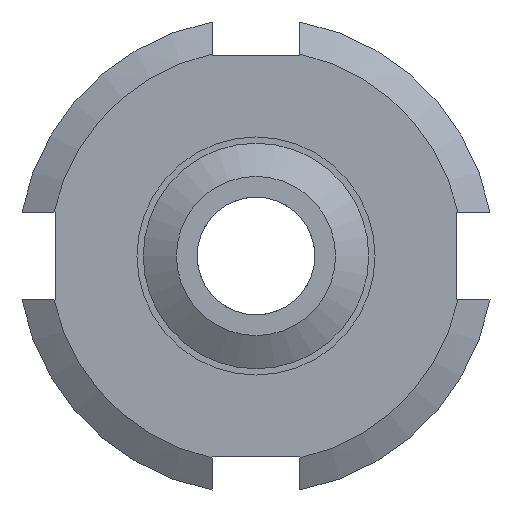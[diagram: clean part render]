
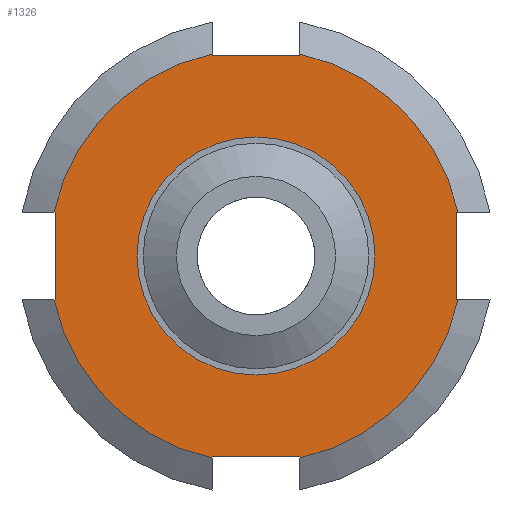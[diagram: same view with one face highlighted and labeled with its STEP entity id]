
A CAD part, front view. The second image highlights one B-rep face of the part: STEP entity #1326.
In plain terms, the highlighted planar face has unit normal (0, -1, 0) as drawn and (1, 0, 0) by its records, which use the part's own axes.
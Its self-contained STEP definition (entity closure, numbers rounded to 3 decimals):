
#84=LINE('',#2314,#142);
#88=LINE('',#2331,#146);
#92=LINE('',#2346,#150);
#94=LINE('',#2351,#152);
#98=LINE('',#2368,#156);
#102=LINE('',#2383,#160);
#104=LINE('',#2388,#162);
#108=LINE('',#2405,#166);
#112=LINE('',#2420,#170);
#119=LINE('',#2484,#177);
#121=LINE('',#2488,#179);
#123=LINE('',#2491,#181);
#142=VECTOR('',#1922,10.);
#146=VECTOR('',#1928,10.);
#150=VECTOR('',#1934,10.);
#152=VECTOR('',#1938,10.);
#156=VECTOR('',#1944,10.);
#160=VECTOR('',#1950,10.);
#162=VECTOR('',#1954,10.);
#166=VECTOR('',#1960,10.);
#170=VECTOR('',#1966,10.);
#177=VECTOR('',#2037,10.);
#179=VECTOR('',#2041,10.);
#181=VECTOR('',#2045,10.);
#211=FACE_BOUND('',#375,.T.);
#235=PLANE('',#1622);
#298=FACE_OUTER_BOUND('',#374,.T.);
#374=EDGE_LOOP('',(#1173,#1174,#1175,#1176,#1177,#1178,#1179,#1180,#1181,
#1182,#1183,#1184,#1185,#1186,#1187,#1188));
#375=EDGE_LOOP('',(#1189,#1190));
#473=CIRCLE('',#1589,16.501);
#475=CIRCLE('',#1592,16.501);
#477=CIRCLE('',#1595,16.501);
#480=CIRCLE('',#1599,16.501);
#491=CIRCLE('',#1623,9.5);
#492=CIRCLE('',#1624,9.5);
#579=VERTEX_POINT('',#2312);
#580=VERTEX_POINT('',#2313);
#585=VERTEX_POINT('',#2329);
#586=VERTEX_POINT('',#2330);
#591=VERTEX_POINT('',#2349);
#592=VERTEX_POINT('',#2350);
#597=VERTEX_POINT('',#2366);
#598=VERTEX_POINT('',#2367);
#603=VERTEX_POINT('',#2386);
#604=VERTEX_POINT('',#2387);
#609=VERTEX_POINT('',#2403);
#610=VERTEX_POINT('',#2404);
#615=VERTEX_POINT('',#2423);
#618=VERTEX_POINT('',#2439);
#627=VERTEX_POINT('',#2483);
#628=VERTEX_POINT('',#2487);
#629=VERTEX_POINT('',#2493);
#630=VERTEX_POINT('',#2494);
#744=EDGE_CURVE('',#579,#580,#84,.T.);
#750=EDGE_CURVE('',#585,#586,#88,.T.);
#756=EDGE_CURVE('',#586,#579,#92,.T.);
#758=EDGE_CURVE('',#591,#592,#94,.T.);
#764=EDGE_CURVE('',#597,#598,#98,.T.);
#770=EDGE_CURVE('',#598,#591,#102,.T.);
#772=EDGE_CURVE('',#603,#604,#104,.T.);
#778=EDGE_CURVE('',#609,#610,#108,.T.);
#784=EDGE_CURVE('',#610,#603,#112,.T.);
#786=EDGE_CURVE('',#615,#609,#473,.T.);
#789=EDGE_CURVE('',#604,#597,#475,.T.);
#791=EDGE_CURVE('',#592,#585,#477,.T.);
#795=EDGE_CURVE('',#580,#618,#480,.T.);
#813=EDGE_CURVE('',#627,#615,#119,.T.);
#815=EDGE_CURVE('',#618,#628,#121,.T.);
#817=EDGE_CURVE('',#628,#627,#123,.T.);
#818=EDGE_CURVE('',#629,#630,#491,.T.);
#819=EDGE_CURVE('',#630,#629,#492,.T.);
#1173=ORIENTED_EDGE('',*,*,#744,.T.);
#1174=ORIENTED_EDGE('',*,*,#795,.T.);
#1175=ORIENTED_EDGE('',*,*,#815,.T.);
#1176=ORIENTED_EDGE('',*,*,#817,.T.);
#1177=ORIENTED_EDGE('',*,*,#813,.T.);
#1178=ORIENTED_EDGE('',*,*,#786,.T.);
#1179=ORIENTED_EDGE('',*,*,#778,.T.);
#1180=ORIENTED_EDGE('',*,*,#784,.T.);
#1181=ORIENTED_EDGE('',*,*,#772,.T.);
#1182=ORIENTED_EDGE('',*,*,#789,.T.);
#1183=ORIENTED_EDGE('',*,*,#764,.T.);
#1184=ORIENTED_EDGE('',*,*,#770,.T.);
#1185=ORIENTED_EDGE('',*,*,#758,.T.);
#1186=ORIENTED_EDGE('',*,*,#791,.T.);
#1187=ORIENTED_EDGE('',*,*,#750,.T.);
#1188=ORIENTED_EDGE('',*,*,#756,.T.);
#1189=ORIENTED_EDGE('',*,*,#818,.F.);
#1190=ORIENTED_EDGE('',*,*,#819,.F.);
#1326=ADVANCED_FACE('',(#298,#211),#235,.T.);
#1589=AXIS2_PLACEMENT_3D('',#2424,#1970,#1971);
#1592=AXIS2_PLACEMENT_3D('',#2431,#1976,#1977);
#1595=AXIS2_PLACEMENT_3D('',#2434,#1982,#1983);
#1599=AXIS2_PLACEMENT_3D('',#2443,#1990,#1991);
#1622=AXIS2_PLACEMENT_3D('',#2492,#2046,#2047);
#1623=AXIS2_PLACEMENT_3D('',#2495,#2048,#2049);
#1624=AXIS2_PLACEMENT_3D('',#2496,#2050,#2051);
#1922=DIRECTION('',(0.,0.,-1.));
#1928=DIRECTION('',(0.,0.,1.));
#1934=DIRECTION('',(0.,1.,0.));
#1938=DIRECTION('',(0.,-1.,0.));
#1944=DIRECTION('',(0.,1.,0.));
#1950=DIRECTION('',(0.,0.,-1.));
#1954=DIRECTION('',(0.,0.,1.));
#1960=DIRECTION('',(0.,0.,-1.));
#1966=DIRECTION('',(0.,-1.,0.));
#1970=DIRECTION('center_axis',(1.,0.,0.));
#1971=DIRECTION('ref_axis',(0.,0.,-1.));
#1976=DIRECTION('center_axis',(1.,0.,0.));
#1977=DIRECTION('ref_axis',(0.,0.,-1.));
#1982=DIRECTION('center_axis',(1.,0.,0.));
#1983=DIRECTION('ref_axis',(0.,0.,-1.));
#1990=DIRECTION('center_axis',(1.,0.,0.));
#1991=DIRECTION('ref_axis',(0.,0.,-1.));
#2037=DIRECTION('',(0.,1.,0.));
#2041=DIRECTION('',(0.,-1.,0.));
#2045=DIRECTION('',(0.,0.,1.));
#2046=DIRECTION('center_axis',(1.,0.,0.));
#2047=DIRECTION('ref_axis',(0.,0.,-1.));
#2048=DIRECTION('center_axis',(1.,0.,0.));
#2049=DIRECTION('ref_axis',(0.,0.,-1.));
#2050=DIRECTION('center_axis',(1.,0.,0.));
#2051=DIRECTION('ref_axis',(0.,0.,-1.));
#2312=CARTESIAN_POINT('',(18.,3.5,-16.));
#2313=CARTESIAN_POINT('',(18.,3.5,-16.125));
#2314=CARTESIAN_POINT('',(18.,3.5,-9.5));
#2329=CARTESIAN_POINT('',(18.,-3.5,-16.125));
#2330=CARTESIAN_POINT('',(18.,-3.5,-16.));
#2331=CARTESIAN_POINT('',(18.,-3.5,-9.5));
#2346=CARTESIAN_POINT('',(18.,4.75,-16.));
#2349=CARTESIAN_POINT('',(18.,-16.,-3.5));
#2350=CARTESIAN_POINT('',(18.,-16.125,-3.5));
#2351=CARTESIAN_POINT('',(18.,-4.75,-3.5));
#2366=CARTESIAN_POINT('',(18.,-16.125,3.5));
#2367=CARTESIAN_POINT('',(18.,-16.,3.5));
#2368=CARTESIAN_POINT('',(18.,-4.75,3.5));
#2383=CARTESIAN_POINT('',(18.,-16.,0.));
#2386=CARTESIAN_POINT('',(18.,-3.5,16.));
#2387=CARTESIAN_POINT('',(18.,-3.5,16.125));
#2388=CARTESIAN_POINT('',(18.,-3.5,9.5));
#2403=CARTESIAN_POINT('',(18.,3.5,16.125));
#2404=CARTESIAN_POINT('',(18.,3.5,16.));
#2405=CARTESIAN_POINT('',(18.,3.5,9.5));
#2420=CARTESIAN_POINT('',(18.,4.75,16.));
#2423=CARTESIAN_POINT('',(18.,16.125,3.5));
#2424=CARTESIAN_POINT('Origin',(18.,0.,0.));
#2431=CARTESIAN_POINT('Origin',(18.,0.,0.));
#2434=CARTESIAN_POINT('Origin',(18.,0.,0.));
#2439=CARTESIAN_POINT('',(18.,16.125,-3.5));
#2443=CARTESIAN_POINT('Origin',(18.,0.,0.));
#2483=CARTESIAN_POINT('',(18.,16.,3.5));
#2484=CARTESIAN_POINT('',(18.,14.25,3.5));
#2487=CARTESIAN_POINT('',(18.,16.,-3.5));
#2488=CARTESIAN_POINT('',(18.,14.25,-3.5));
#2491=CARTESIAN_POINT('',(18.,16.,0.));
#2492=CARTESIAN_POINT('Origin',(18.,9.5,0.));
#2493=CARTESIAN_POINT('',(18.,9.5,0.));
#2494=CARTESIAN_POINT('',(18.,-9.5,0.));
#2495=CARTESIAN_POINT('Origin',(18.,0.,0.));
#2496=CARTESIAN_POINT('Origin',(18.,0.,0.));
